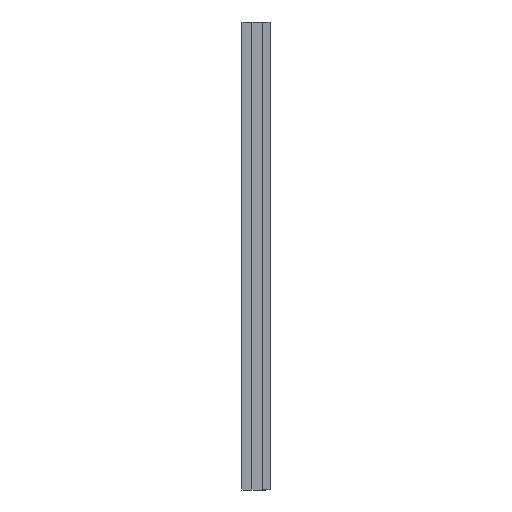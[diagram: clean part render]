
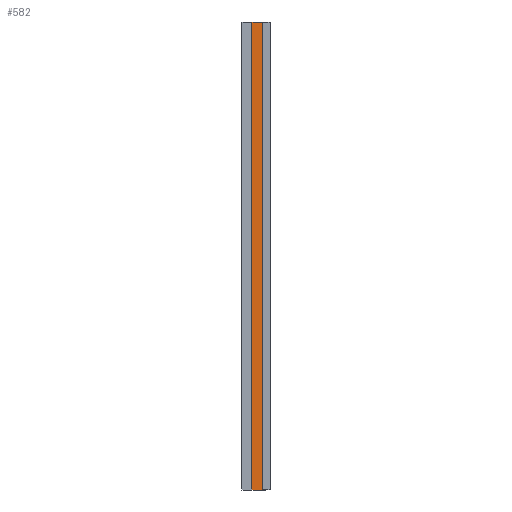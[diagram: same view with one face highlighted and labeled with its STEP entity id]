
A CAD part, left-side view. The second image highlights one B-rep face of the part: STEP entity #582.
In plain terms, the highlighted planar face has unit normal (-1, 0, 0).
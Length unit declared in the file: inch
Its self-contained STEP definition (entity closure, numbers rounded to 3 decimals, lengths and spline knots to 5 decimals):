
#28=PLANE('',#674);
#52=FACE_OUTER_BOUND('',#84,.T.);
#84=EDGE_LOOP('',(#413,#414,#415,#416));
#118=LINE('',#922,#182);
#120=LINE('',#928,#184);
#121=LINE('',#930,#185);
#122=LINE('',#931,#186);
#182=VECTOR('',#743,0.3937);
#184=VECTOR('',#749,0.3937);
#185=VECTOR('',#750,0.3937);
#186=VECTOR('',#751,0.3937);
#268=VERTEX_POINT('',#919);
#269=VERTEX_POINT('',#921);
#271=VERTEX_POINT('',#927);
#272=VERTEX_POINT('',#929);
#325=EDGE_CURVE('',#268,#269,#118,.T.);
#328=EDGE_CURVE('',#268,#271,#120,.T.);
#329=EDGE_CURVE('',#271,#272,#121,.T.);
#330=EDGE_CURVE('',#269,#272,#122,.T.);
#413=ORIENTED_EDGE('',*,*,#325,.F.);
#414=ORIENTED_EDGE('',*,*,#328,.T.);
#415=ORIENTED_EDGE('',*,*,#329,.T.);
#416=ORIENTED_EDGE('',*,*,#330,.F.);
#582=ADVANCED_FACE('',(#52),#28,.T.);
#674=AXIS2_PLACEMENT_3D('',#926,#747,#748);
#743=DIRECTION('',(0.,0.,1.));
#747=DIRECTION('center_axis',(-1.,0.,0.));
#748=DIRECTION('ref_axis',(0.,-1.,0.));
#749=DIRECTION('',(0.,-1.,0.));
#750=DIRECTION('',(0.,0.,1.));
#751=DIRECTION('',(0.,-1.,0.));
#919=CARTESIAN_POINT('',(1.2551,-0.025,0.));
#921=CARTESIAN_POINT('',(1.2551,-0.025,120.));
#922=CARTESIAN_POINT('',(1.2551,-0.025,0.));
#926=CARTESIAN_POINT('Origin',(1.2551,-0.0179,0.));
#927=CARTESIAN_POINT('',(1.2551,-3.476,0.));
#928=CARTESIAN_POINT('',(1.2551,-0.0179,0.));
#929=CARTESIAN_POINT('',(1.2551,-3.476,120.));
#930=CARTESIAN_POINT('',(1.2551,-3.476,0.));
#931=CARTESIAN_POINT('',(1.2551,-0.0179,120.));
